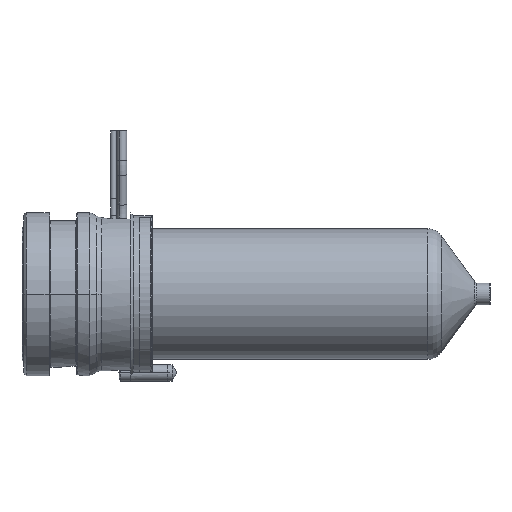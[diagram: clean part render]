
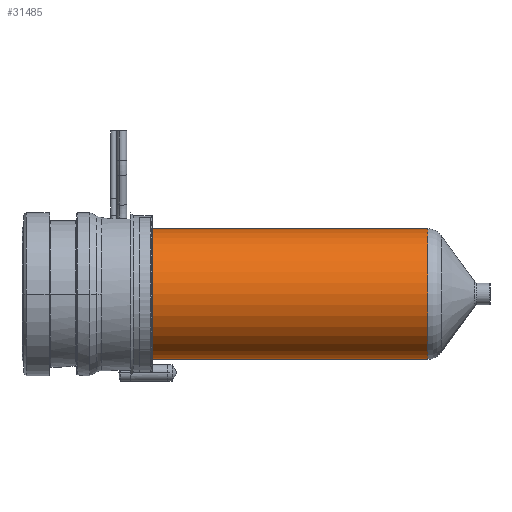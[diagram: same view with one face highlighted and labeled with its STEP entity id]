
A CAD part, left-side view. The second image highlights one B-rep face of the part: STEP entity #31485.
In plain terms, the highlighted cylindrical face has radius 12 mm (diameter 24 mm), a partial arc.
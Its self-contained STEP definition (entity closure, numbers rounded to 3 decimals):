
#31130=CARTESIAN_POINT('',(0.,-24.,0.));
#31131=DIRECTION('',(0.,1.,0.));
#31132=DIRECTION('',(0.,0.,-1.));
#31133=AXIS2_PLACEMENT_3D('',#31130,#31131,#31132);
#31138=DIRECTION('',(0.,1.,0.));
#31139=VECTOR('',#31138,50.671);
#31140=CARTESIAN_POINT('',(0.,-74.671,12.));
#31141=LINE('',#31140,#31139);
#31153=DIRECTION('',(0.,1.,0.));
#31154=VECTOR('',#31153,50.671);
#31155=CARTESIAN_POINT('',(0.,-74.671,-12.));
#31156=LINE('',#31155,#31154);
#31184=CARTESIAN_POINT('',(0.,-74.671,0.));
#31185=DIRECTION('',(0.,-1.,0.));
#31186=DIRECTION('',(0.,0.,1.));
#31187=AXIS2_PLACEMENT_3D('',#31184,#31185,#31186);
#31374=CARTESIAN_POINT('',(0.,-74.671,12.));
#31375=CARTESIAN_POINT('',(0.,-24.,12.));
#31376=VERTEX_POINT('',#31374);
#31377=VERTEX_POINT('',#31375);
#31382=CARTESIAN_POINT('',(0.,-74.671,-12.));
#31383=CARTESIAN_POINT('',(0.,-24.,-12.));
#31384=VERTEX_POINT('',#31382);
#31385=VERTEX_POINT('',#31383);
#31471=CARTESIAN_POINT('',(0.,-16.7,0.));
#31472=DIRECTION('',(0.,-1.,0.));
#31473=DIRECTION('',(0.,0.,1.));
#31474=AXIS2_PLACEMENT_3D('',#31471,#31472,#31473);
#31475=CYLINDRICAL_SURFACE('',#31474,12.);
#31477=ORIENTED_EDGE('',*,*,#31476,.F.);
#31479=ORIENTED_EDGE('',*,*,#31478,.T.);
#31481=ORIENTED_EDGE('',*,*,#31480,.T.);
#31482=ORIENTED_EDGE('',*,*,#31464,.T.);
#31483=EDGE_LOOP('',(#31477,#31479,#31481,#31482));
#31484=FACE_OUTER_BOUND('',#31483,.F.);
#31485=ADVANCED_FACE('',(#31484),#31475,.T.);
#31134=CIRCLE('',#31133,12.);
#31188=CIRCLE('',#31187,12.);
#31464=EDGE_CURVE('',#31385,#31377,#31134,.T.);
#31476=EDGE_CURVE('',#31376,#31377,#31141,.T.);
#31478=EDGE_CURVE('',#31376,#31384,#31188,.T.);
#31480=EDGE_CURVE('',#31384,#31385,#31156,.T.);
